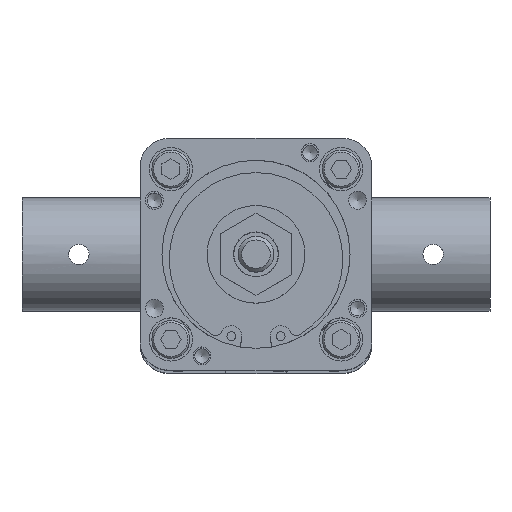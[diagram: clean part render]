
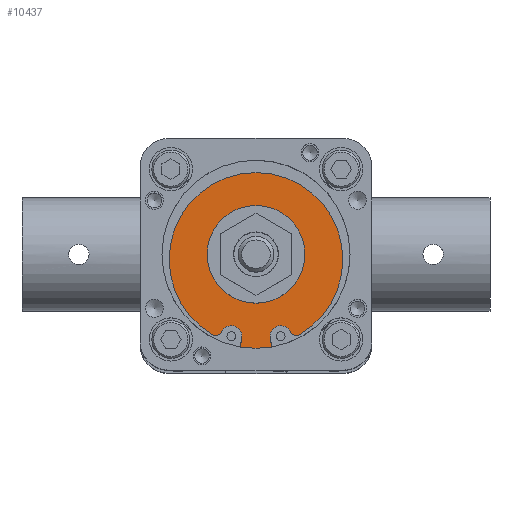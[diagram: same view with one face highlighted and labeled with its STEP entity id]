
A CAD part, top view. The second image highlights one B-rep face of the part: STEP entity #10437.
In plain terms, the highlighted planar face has unit normal (0, 0, 1).
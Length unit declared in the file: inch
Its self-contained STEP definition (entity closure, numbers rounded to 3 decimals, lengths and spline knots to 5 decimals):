
#15 = CARTESIAN_POINT ( 'NONE',  ( -0.12531, -0.73562, 1.09303 ) ) ;
#109 = DIRECTION ( 'NONE',  ( 0., 0., 1. ) ) ;
#200 = CARTESIAN_POINT ( 'NONE',  ( -0.38049, -0.7077, 1.09303 ) ) ;
#256 = DIRECTION ( 'NONE',  ( -1., 0., 0. ) ) ;
#458 = VERTEX_POINT ( 'NONE', #3754 ) ;
#889 = DIRECTION ( 'NONE',  ( 0., 0., 1. ) ) ;
#946 = FACE_BOUND ( 'NONE', #6347, .T. ) ;
#1079 = CARTESIAN_POINT ( 'NONE',  ( -0.30059, -0.68193, 1.09303 ) ) ;
#1171 = ORIENTED_EDGE ( 'NONE', *, *, #9724, .T. ) ;
#1200 = VERTEX_POINT ( 'NONE', #1589 ) ;
#1589 = CARTESIAN_POINT ( 'NONE',  ( 0.12531, -0.73562, 1.09303 ) ) ;
#1745 = CARTESIAN_POINT ( 'NONE',  ( -0.43, 0., 1.09303 ) ) ;
#1755 = DIRECTION ( 'NONE',  ( -1., 0., 0. ) ) ;
#1782 = VERTEX_POINT ( 'NONE', #15 ) ;
#1797 = DIRECTION ( 'NONE',  ( 0., 0., 1. ) ) ;
#2584 = CIRCLE ( 'NONE', #4119, 0.05672 ) ;
#2799 = AXIS2_PLACEMENT_3D ( 'NONE', #9279, #4681, #4734 ) ;
#2817 = VERTEX_POINT ( 'NONE', #1079 ) ;
#2913 = AXIS2_PLACEMENT_3D ( 'NONE', #3821, #4801, #256 ) ;
#3522 = DIRECTION ( 'NONE',  ( -1., 0., 0. ) ) ;
#3548 = AXIS2_PLACEMENT_3D ( 'NONE', #4342, #1797, #3665 ) ;
#3665 = DIRECTION ( 'NONE',  ( -1., 0., 0. ) ) ;
#3754 = CARTESIAN_POINT ( 'NONE',  ( 0.38049, -0.7077, 1.09303 ) ) ;
#3821 = CARTESIAN_POINT ( 'NONE',  ( -0.21642, -0.7201, 1.09303 ) ) ;
#3835 = DIRECTION ( 'NONE',  ( 0., 0., 1. ) ) ;
#4050 = VERTEX_POINT ( 'NONE', #6055 ) ;
#4119 = AXIS2_PLACEMENT_3D ( 'NONE', #9130, #889, #9962 ) ;
#4189 = CARTESIAN_POINT ( 'NONE',  ( 0., 0., 1.09303 ) ) ;
#4196 = AXIS2_PLACEMENT_3D ( 'NONE', #9935, #11740, #3522 ) ;
#4228 = EDGE_CURVE ( 'NONE', #1200, #7117, #6308, .T. ) ;
#4342 = CARTESIAN_POINT ( 'NONE',  ( 0., -0.04482, 1.09303 ) ) ;
#4473 = VERTEX_POINT ( 'NONE', #1745 ) ;
#4539 = CIRCLE ( 'NONE', #8150, 0.8865 ) ;
#4547 = CIRCLE ( 'NONE', #2799, 0.05672 ) ;
#4588 = PLANE ( 'NONE',  #11159 ) ;
#4646 = DIRECTION ( 'NONE',  ( -1., 0., 0. ) ) ;
#4681 = DIRECTION ( 'NONE',  ( 0., 0., 1. ) ) ;
#4734 = DIRECTION ( 'NONE',  ( 1., 0., 0. ) ) ;
#4801 = DIRECTION ( 'NONE',  ( 0., 0., -1. ) ) ;
#4848 = VERTEX_POINT ( 'NONE', #200 ) ;
#5468 = EDGE_CURVE ( 'NONE', #1782, #11186, #7053, .T. ) ;
#5647 = CARTESIAN_POINT ( 'NONE',  ( 0., 0., 1.09303 ) ) ;
#5929 = VECTOR ( 'NONE', #8971, 39.37008 ) ;
#6055 = CARTESIAN_POINT ( 'NONE',  ( 0.14887, -0.87391, 1.09303 ) ) ;
#6308 = CIRCLE ( 'NONE', #4196, 0.09242 ) ;
#6347 = EDGE_LOOP ( 'NONE', ( #1171 ) ) ;
#6500 = ORIENTED_EDGE ( 'NONE', *, *, #7113, .T. ) ;
#7053 = LINE ( 'NONE', #10810, #5929 ) ;
#7091 = EDGE_CURVE ( 'NONE', #458, #4848, #11392, .T. ) ;
#7113 = EDGE_CURVE ( 'NONE', #4050, #1200, #7207, .T. ) ;
#7117 = VERTEX_POINT ( 'NONE', #7329 ) ;
#7149 = EDGE_CURVE ( 'NONE', #7117, #458, #2584, .T. ) ;
#7207 = LINE ( 'NONE', #11700, #7380 ) ;
#7329 = CARTESIAN_POINT ( 'NONE',  ( 0.30059, -0.68193, 1.09303 ) ) ;
#7380 = VECTOR ( 'NONE', #9015, 39.37008 ) ;
#7612 = DIRECTION ( 'NONE',  ( -1., 0., 0. ) ) ;
#7769 = ORIENTED_EDGE ( 'NONE', *, *, #4228, .T. ) ;
#7879 = EDGE_CURVE ( 'NONE', #11186, #4050, #4539, .T. ) ;
#7963 = ORIENTED_EDGE ( 'NONE', *, *, #7879, .T. ) ;
#8150 = AXIS2_PLACEMENT_3D ( 'NONE', #5647, #3835, #7612 ) ;
#8402 = EDGE_CURVE ( 'NONE', #4848, #2817, #4547, .T. ) ;
#8622 = CARTESIAN_POINT ( 'NONE',  ( -0.14887, -0.87391, 1.09303 ) ) ;
#8651 = AXIS2_PLACEMENT_3D ( 'NONE', #4189, #9634, #1755 ) ;
#8971 = DIRECTION ( 'NONE',  ( -0.168, -0.986, 0. ) ) ;
#9015 = DIRECTION ( 'NONE',  ( -0.168, 0.986, 0. ) ) ;
#9102 = EDGE_LOOP ( 'NONE', ( #6500, #7769, #11847, #11570, #11015, #11185, #10950, #7963 ) ) ;
#9130 = CARTESIAN_POINT ( 'NONE',  ( 0.35225, -0.65851, 1.09303 ) ) ;
#9279 = CARTESIAN_POINT ( 'NONE',  ( -0.35225, -0.65851, 1.09303 ) ) ;
#9295 = FACE_OUTER_BOUND ( 'NONE', #9102, .T. ) ;
#9634 = DIRECTION ( 'NONE',  ( 0., 0., -1. ) ) ;
#9724 = EDGE_CURVE ( 'NONE', #4473, #4473, #10956, .T. ) ;
#9935 = CARTESIAN_POINT ( 'NONE',  ( 0.21642, -0.7201, 1.09303 ) ) ;
#9962 = DIRECTION ( 'NONE',  ( 1., 0., 0. ) ) ;
#10383 = CIRCLE ( 'NONE', #2913, 0.09242 ) ;
#10437 = ADVANCED_FACE ( 'NONE', ( #946, #9295 ), #4588, .T. ) ;
#10721 = EDGE_CURVE ( 'NONE', #2817, #1782, #10383, .T. ) ;
#10810 = CARTESIAN_POINT ( 'NONE',  ( -0.12531, -0.73562, 1.09303 ) ) ;
#10950 = ORIENTED_EDGE ( 'NONE', *, *, #5468, .T. ) ;
#10956 = CIRCLE ( 'NONE', #8651, 0.43 ) ;
#11015 = ORIENTED_EDGE ( 'NONE', *, *, #8402, .T. ) ;
#11155 = CARTESIAN_POINT ( 'NONE',  ( 0., 0., 1.09303 ) ) ;
#11159 = AXIS2_PLACEMENT_3D ( 'NONE', #11155, #109, #4646 ) ;
#11185 = ORIENTED_EDGE ( 'NONE', *, *, #10721, .T. ) ;
#11186 = VERTEX_POINT ( 'NONE', #8622 ) ;
#11392 = CIRCLE ( 'NONE', #3548, 0.76432 ) ;
#11570 = ORIENTED_EDGE ( 'NONE', *, *, #7091, .T. ) ;
#11700 = CARTESIAN_POINT ( 'NONE',  ( 0.14887, -0.87391, 1.09303 ) ) ;
#11740 = DIRECTION ( 'NONE',  ( 0., 0., -1. ) ) ;
#11847 = ORIENTED_EDGE ( 'NONE', *, *, #7149, .T. ) ;
